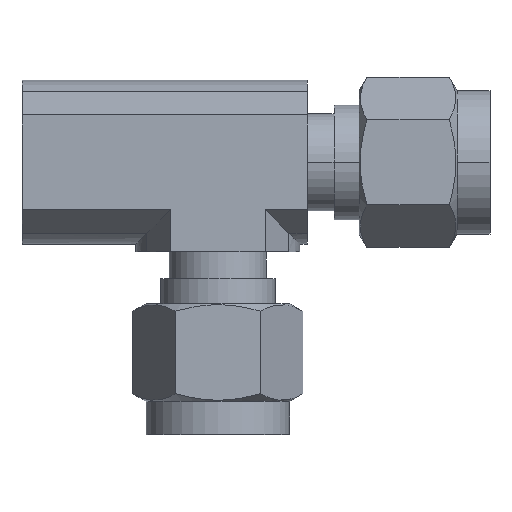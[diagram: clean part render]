
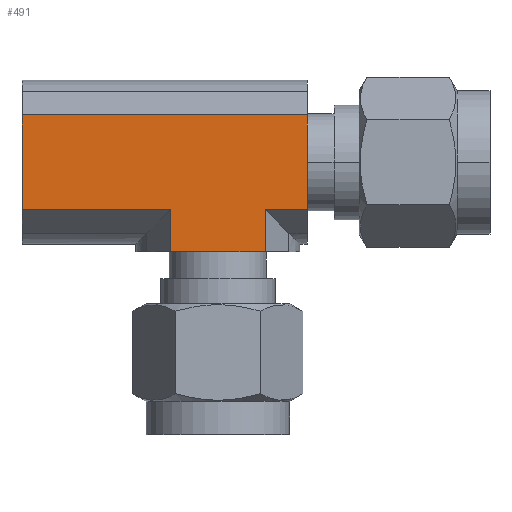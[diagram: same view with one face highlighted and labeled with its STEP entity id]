
A CAD part, top view. The second image highlights one B-rep face of the part: STEP entity #491.
In plain terms, the highlighted planar face has unit normal (0, 0, 1).
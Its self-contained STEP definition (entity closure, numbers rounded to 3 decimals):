
#428 = ORIENTED_EDGE ( 'NONE', *, *, #489, .T. ) ;
#429 = ORIENTED_EDGE ( 'NONE', *, *, #430, .F. ) ;
#430 = EDGE_CURVE ( 'NONE', #576, #479, #1553, .T. ) ;
#479 = VERTEX_POINT ( 'NONE', #1589 ) ;
#489 = EDGE_CURVE ( 'NONE', #519, #479, #1582, .T. ) ;
#491 = ADVANCED_FACE ( 'NONE', ( #1578 ), #1576, .F. ) ;
#492 = EDGE_LOOP ( 'NONE', ( #493, #535, #537, #538, #540, #541, #428, #429 ) ) ;
#493 = ORIENTED_EDGE ( 'NONE', *, *, #575, .F. ) ;
#509 = EDGE_CURVE ( 'NONE', #519, #510, #1797, .T. ) ;
#510 = VERTEX_POINT ( 'NONE', #1793 ) ;
#519 = VERTEX_POINT ( 'NONE', #1781 ) ;
#529 = EDGE_CURVE ( 'NONE', #510, #584, #1759, .T. ) ;
#535 = ORIENTED_EDGE ( 'NONE', *, *, #536, .F. ) ;
#536 = EDGE_CURVE ( 'NONE', #809, #572, #1751, .T. ) ;
#537 = ORIENTED_EDGE ( 'NONE', *, *, #808, .F. ) ;
#538 = ORIENTED_EDGE ( 'NONE', *, *, #539, .T. ) ;
#539 = EDGE_CURVE ( 'NONE', #806, #584, #1971, .T. ) ;
#540 = ORIENTED_EDGE ( 'NONE', *, *, #529, .F. ) ;
#541 = ORIENTED_EDGE ( 'NONE', *, *, #509, .F. ) ;
#572 = VERTEX_POINT ( 'NONE', #1861 ) ;
#575 = EDGE_CURVE ( 'NONE', #572, #576, #1859, .T. ) ;
#576 = VERTEX_POINT ( 'NONE', #1855 ) ;
#584 = VERTEX_POINT ( 'NONE', #1840 ) ;
#806 = VERTEX_POINT ( 'NONE', #2293 ) ;
#808 = EDGE_CURVE ( 'NONE', #806, #809, #2292, .T. ) ;
#809 = VERTEX_POINT ( 'NONE', #2216 ) ;
#1550 = DIRECTION ( 'NONE',  ( 0., 1., 0. ) ) ;
#1551 = VECTOR ( 'NONE', #1550, 1000. ) ;
#1552 = CARTESIAN_POINT ( 'NONE',  ( -19., -4.59, 7.95 ) ) ;
#1553 = LINE ( 'NONE', #1552, #1551 ) ;
#1575 = AXIS2_PLACEMENT_3D ( 'NONE', #1637, #1636, #1635 ) ;
#1576 = PLANE ( 'NONE',  #1575 ) ;
#1578 = FACE_OUTER_BOUND ( 'NONE', #492, .T. ) ;
#1579 = DIRECTION ( 'NONE',  ( -1., 0., 0. ) ) ;
#1580 = VECTOR ( 'NONE', #1579, 1000. ) ;
#1581 = CARTESIAN_POINT ( 'NONE',  ( 8.67, 4.59, 7.95 ) ) ;
#1582 = LINE ( 'NONE', #1581, #1580 ) ;
#1589 = CARTESIAN_POINT ( 'NONE',  ( -19., 4.59, 7.95 ) ) ;
#1635 = DIRECTION ( 'NONE',  ( 0., 1., 0. ) ) ;
#1636 = DIRECTION ( 'NONE',  ( 0., 0., -1. ) ) ;
#1637 = CARTESIAN_POINT ( 'NONE',  ( 8.67, 4.59, 7.95 ) ) ;
#1745 = DIRECTION ( 'NONE',  ( 0., 1., 0. ) ) ;
#1746 = VECTOR ( 'NONE', #1745, 1000. ) ;
#1747 = CARTESIAN_POINT ( 'NONE',  ( -4.59, -8.67, 7.95 ) ) ;
#1751 = LINE ( 'NONE', #1747, #1746 ) ;
#1756 = DIRECTION ( 'NONE',  ( -1., 0., 0. ) ) ;
#1757 = VECTOR ( 'NONE', #1756, 1000. ) ;
#1758 = CARTESIAN_POINT ( 'NONE',  ( 8.67, -4.59, 7.95 ) ) ;
#1759 = LINE ( 'NONE', #1758, #1757 ) ;
#1781 = CARTESIAN_POINT ( 'NONE',  ( 8.67, 4.59, 7.95 ) ) ;
#1793 = CARTESIAN_POINT ( 'NONE',  ( 8.67, -4.59, 7.95 ) ) ;
#1794 = DIRECTION ( 'NONE',  ( 0., -1., 0. ) ) ;
#1795 = VECTOR ( 'NONE', #1794, 1000. ) ;
#1796 = CARTESIAN_POINT ( 'NONE',  ( 8.67, 4.59, 7.95 ) ) ;
#1797 = LINE ( 'NONE', #1796, #1795 ) ;
#1840 = CARTESIAN_POINT ( 'NONE',  ( 4.59, -4.59, 7.95 ) ) ;
#1855 = CARTESIAN_POINT ( 'NONE',  ( -19., -4.59, 7.95 ) ) ;
#1856 = DIRECTION ( 'NONE',  ( -1., 0., 0. ) ) ;
#1857 = VECTOR ( 'NONE', #1856, 1000. ) ;
#1858 = CARTESIAN_POINT ( 'NONE',  ( 8.67, -4.59, 7.95 ) ) ;
#1859 = LINE ( 'NONE', #1858, #1857 ) ;
#1861 = CARTESIAN_POINT ( 'NONE',  ( -4.59, -4.59, 7.95 ) ) ;
#1968 = DIRECTION ( 'NONE',  ( 0., 1., 0. ) ) ;
#1969 = VECTOR ( 'NONE', #1968, 1000. ) ;
#1970 = CARTESIAN_POINT ( 'NONE',  ( 4.59, -8.67, 7.95 ) ) ;
#1971 = LINE ( 'NONE', #1970, #1969 ) ;
#2216 = CARTESIAN_POINT ( 'NONE',  ( -4.59, -8.67, 7.95 ) ) ;
#2217 = VECTOR ( 'NONE', #2290, 1000. ) ;
#2290 = DIRECTION ( 'NONE',  ( -1., 0., 0. ) ) ;
#2291 = CARTESIAN_POINT ( 'NONE',  ( 4.59, -8.67, 7.95 ) ) ;
#2292 = LINE ( 'NONE', #2291, #2217 ) ;
#2293 = CARTESIAN_POINT ( 'NONE',  ( 4.59, -8.67, 7.95 ) ) ;
